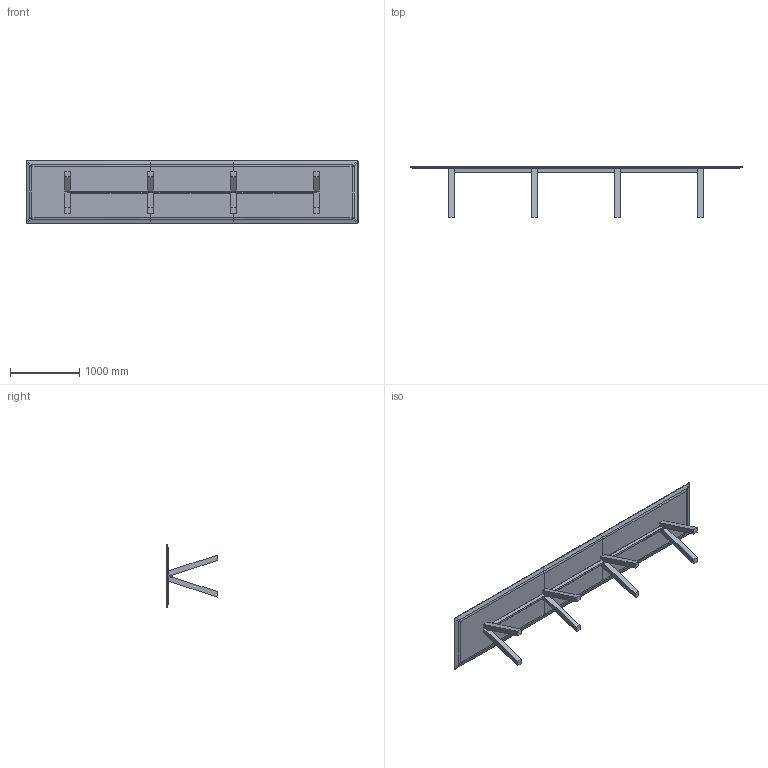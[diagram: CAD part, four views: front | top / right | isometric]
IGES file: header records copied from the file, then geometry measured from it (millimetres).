
Start section: SolidWorks IGES file using NURBS representation for surfaces
Global section: file name: W:\01-VICCARBE\PRODUCTOS\45-TRESTLE\04-MODELADOS (PLANOS)\WEB\table\3D\IGES\viccarbe_trestle_table_triple.IGS; native system: SolidWorks 2013; preprocessor: SolidWorks 2013; author: Usuario; date: 140918.101941; units: millimetre
Bounding box: 4800 x 729 x 900 mm (x, y, z)
Surface area: 11925942.6 mm2 (no closed solid volume)
Topology: 0 solids, 0 shells, 170 faces, 748 edges, 744 vertices
Faces by surface type: bspline 170
